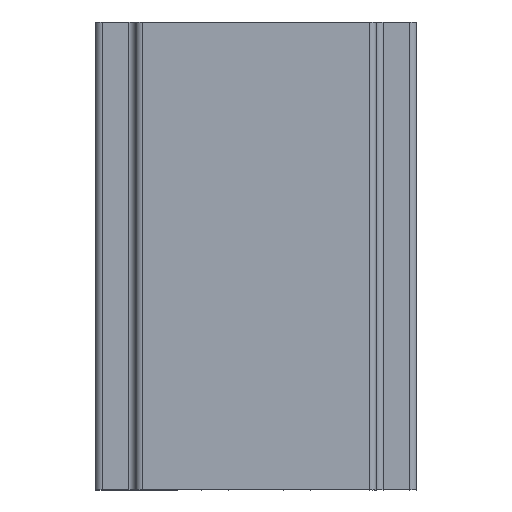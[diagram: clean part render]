
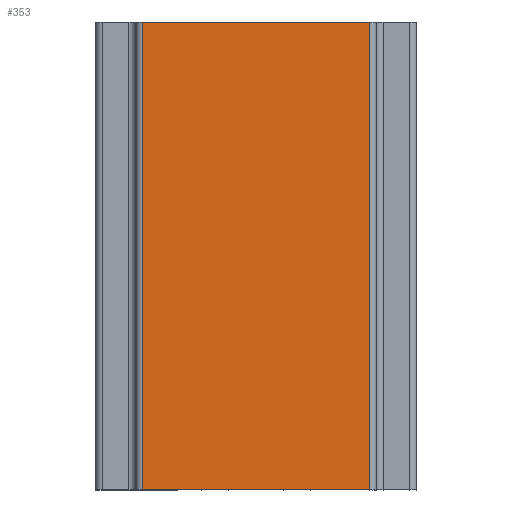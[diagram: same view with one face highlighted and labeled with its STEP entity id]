
A CAD part, front view. The second image highlights one B-rep face of the part: STEP entity #353.
In plain terms, the highlighted planar face has unit normal (0, -1, 0).
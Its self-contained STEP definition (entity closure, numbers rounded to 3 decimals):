
#314=CARTESIAN_POINT('',(0.,-7.,17.5));
#315=DIRECTION('',(1.,0.,0.));
#316=DIRECTION('',(0.,-1.,0.));
#317=AXIS2_PLACEMENT_3D('',#314,#316,#315);
#318=PLANE('',#317);
#319=CARTESIAN_POINT('',(-8.503,-7.,0.));
#320=VERTEX_POINT('',#319);
#321=CARTESIAN_POINT('',(8.503,-7.,0.));
#322=VERTEX_POINT('',#321);
#323=CARTESIAN_POINT('',(-8.503,-7.,0.));
#324=DIRECTION('',(1.,0.,0.));
#325=VECTOR('',#324,17.005);
#326=LINE('',#323,#325);
#327=EDGE_CURVE('',#320,#322,#326,.T.);
#328=ORIENTED_EDGE('E5',*,*,#327,.T.);
#329=CARTESIAN_POINT('',(8.503,-7.,35.));
#330=VERTEX_POINT('',#329);
#331=CARTESIAN_POINT('',(8.503,-7.,0.));
#332=DIRECTION('',(0.,0.,1.));
#333=VECTOR('',#332,35.);
#334=LINE('',#331,#333);
#335=EDGE_CURVE('',#322,#330,#334,.T.);
#336=ORIENTED_EDGE('E54',*,*,#335,.T.);
#337=CARTESIAN_POINT('',(-8.503,-7.,35.));
#338=VERTEX_POINT('',#337);
#339=CARTESIAN_POINT('',(-8.503,-7.,35.));
#340=DIRECTION('',(1.,0.,0.));
#341=VECTOR('',#340,17.005);
#342=LINE('',#339,#341);
#343=EDGE_CURVE('',#338,#330,#342,.T.);
#344=ORIENTED_EDGE('E13',*,*,#343,.F.);
#345=CARTESIAN_POINT('',(-8.503,-7.,0.));
#346=DIRECTION('',(0.,0.,1.));
#347=VECTOR('',#346,35.);
#348=LINE('',#345,#347);
#349=EDGE_CURVE('',#320,#338,#348,.T.);
#350=ORIENTED_EDGE('E53',*,*,#349,.F.);
#351=EDGE_LOOP('',(#328,#336,#344,#350));
#352=FACE_OUTER_BOUND('',#351,.T.);
#353=ADVANCED_FACE('F58',(#352),#318,.T.);
